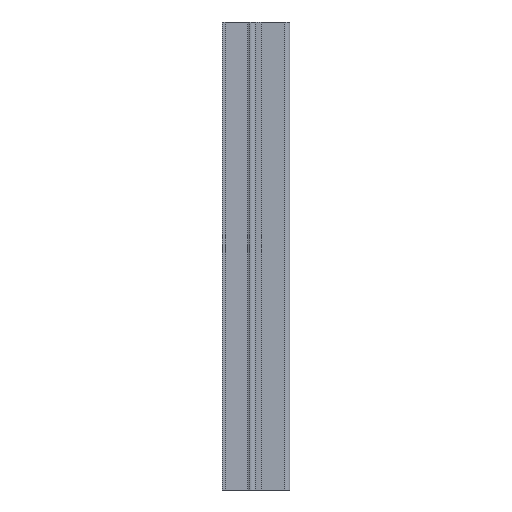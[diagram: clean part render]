
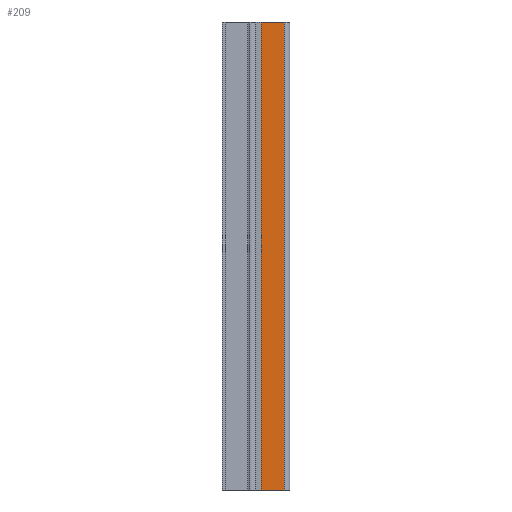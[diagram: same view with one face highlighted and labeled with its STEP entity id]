
A CAD part, front view. The second image highlights one B-rep face of the part: STEP entity #209.
In plain terms, the highlighted planar face has unit normal (-0.025, -1, 0).
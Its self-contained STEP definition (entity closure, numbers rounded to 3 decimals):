
#142 = VERTEX_POINT ( 'NONE', #386 ) ;
#190 = ORIENTED_EDGE ( 'NONE', *, *, #222, .T. ) ;
#207 = VERTEX_POINT ( 'NONE', #572 ) ;
#208 = ORIENTED_EDGE ( 'NONE', *, *, #259, .F. ) ;
#209 = ADVANCED_FACE ( 'NONE', ( #582 ), #539, .F. ) ;
#210 = EDGE_LOOP ( 'NONE', ( #218, #213, #208, #190 ) ) ;
#213 = ORIENTED_EDGE ( 'NONE', *, *, #215, .F. ) ;
#215 = EDGE_CURVE ( 'NONE', #223, #221, #610, .T. ) ;
#216 = EDGE_CURVE ( 'NONE', #142, #221, #567, .T. ) ;
#218 = ORIENTED_EDGE ( 'NONE', *, *, #216, .T. ) ;
#221 = VERTEX_POINT ( 'NONE', #596 ) ;
#222 = EDGE_CURVE ( 'NONE', #207, #142, #589, .T. ) ;
#223 = VERTEX_POINT ( 'NONE', #597 ) ;
#259 = EDGE_CURVE ( 'NONE', #207, #223, #732, .T. ) ;
#386 = CARTESIAN_POINT ( 'NONE',  ( 66.266, -1.842, 0. ) ) ;
#539 = PLANE ( 'NONE',  #565 ) ;
#565 = AXIS2_PLACEMENT_3D ( 'NONE', #578, #571, #613 ) ;
#566 = CARTESIAN_POINT ( 'NONE',  ( 41.507, -1.222, 0. ) ) ;
#567 = LINE ( 'NONE', #566, #606 ) ;
#571 = DIRECTION ( 'NONE',  ( 0.025, 1., 0. ) ) ;
#572 = CARTESIAN_POINT ( 'NONE',  ( 66.266, -1.842, -500. ) ) ;
#578 = CARTESIAN_POINT ( 'NONE',  ( 41.507, -1.222, -500. ) ) ;
#582 = FACE_OUTER_BOUND ( 'NONE', #210, .T. ) ;
#586 = DIRECTION ( 'NONE',  ( 0., 0., 1. ) ) ;
#587 = VECTOR ( 'NONE', #586, 1000. ) ;
#588 = CARTESIAN_POINT ( 'NONE',  ( 66.266, -1.842, -500. ) ) ;
#589 = LINE ( 'NONE', #588, #587 ) ;
#596 = CARTESIAN_POINT ( 'NONE',  ( 41.507, -1.222, 0. ) ) ;
#597 = CARTESIAN_POINT ( 'NONE',  ( 41.507, -1.222, -500. ) ) ;
#605 = DIRECTION ( 'NONE',  ( -1., 0.025, 0. ) ) ;
#606 = VECTOR ( 'NONE', #605, 1000. ) ;
#607 = DIRECTION ( 'NONE',  ( 0., 0., 1. ) ) ;
#608 = VECTOR ( 'NONE', #607, 1000. ) ;
#609 = CARTESIAN_POINT ( 'NONE',  ( 41.507, -1.222, -500. ) ) ;
#610 = LINE ( 'NONE', #609, #608 ) ;
#613 = DIRECTION ( 'NONE',  ( -1., 0.025, 0. ) ) ;
#729 = DIRECTION ( 'NONE',  ( -1., 0.025, 0. ) ) ;
#730 = VECTOR ( 'NONE', #729, 1000. ) ;
#731 = CARTESIAN_POINT ( 'NONE',  ( 41.507, -1.222, -500. ) ) ;
#732 = LINE ( 'NONE', #731, #730 ) ;
